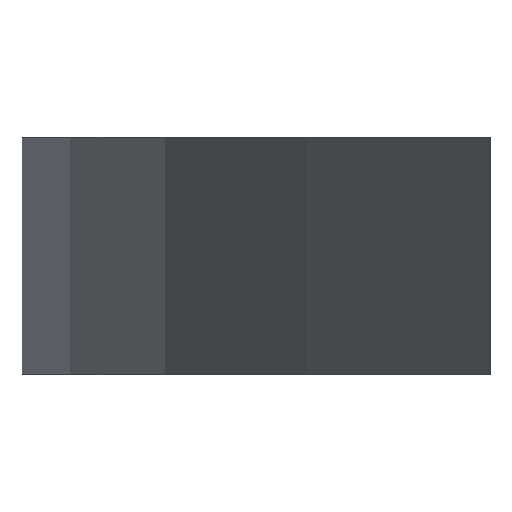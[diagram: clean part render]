
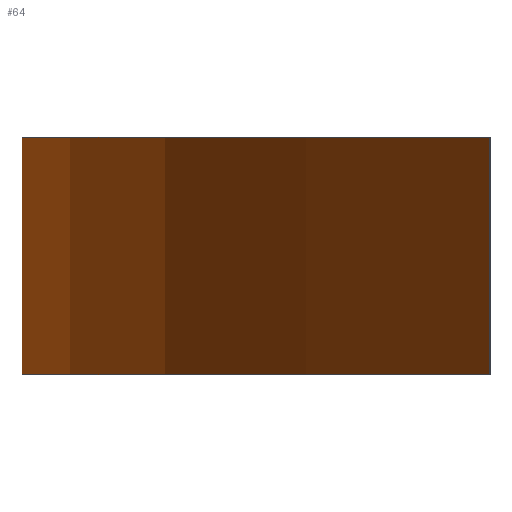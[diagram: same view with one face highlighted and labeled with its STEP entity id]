
A CAD part, left-side view. The second image highlights one B-rep face of the part: STEP entity #64.
In plain terms, the highlighted cylindrical face has radius 50 mm (diameter 100 mm), a partial arc.
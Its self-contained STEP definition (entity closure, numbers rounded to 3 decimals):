
#14=CYLINDRICAL_SURFACE('',#89,50.);
#16=FACE_OUTER_BOUND('',#20,.T.);
#20=EDGE_LOOP('',(#45,#46,#47,#48));
#23=CIRCLE('',#88,50.);
#24=CIRCLE('',#90,50.);
#26=LINE('',#119,#30);
#27=LINE('',#122,#31);
#30=VECTOR('',#102,10.);
#31=VECTOR('',#105,10.);
#33=VERTEX_POINT('',#113);
#34=VERTEX_POINT('',#114);
#35=VERTEX_POINT('',#118);
#36=VERTEX_POINT('',#120);
#38=EDGE_CURVE('',#34,#33,#23,.T.);
#39=EDGE_CURVE('',#35,#34,#26,.T.);
#40=EDGE_CURVE('',#36,#35,#24,.T.);
#41=EDGE_CURVE('',#33,#36,#27,.T.);
#45=ORIENTED_EDGE('',*,*,#39,.F.);
#46=ORIENTED_EDGE('',*,*,#40,.F.);
#47=ORIENTED_EDGE('',*,*,#41,.F.);
#48=ORIENTED_EDGE('',*,*,#38,.F.);
#64=ADVANCED_FACE('',(#16),#14,.T.);
#88=AXIS2_PLACEMENT_3D('',#116,#98,#99);
#89=AXIS2_PLACEMENT_3D('',#117,#100,#101);
#90=AXIS2_PLACEMENT_3D('',#121,#103,#104);
#98=DIRECTION('center_axis',(0.,0.,-1.));
#99=DIRECTION('ref_axis',(0.543,0.84,0.));
#100=DIRECTION('center_axis',(0.,0.,1.));
#101=DIRECTION('ref_axis',(0.543,0.84,0.));
#102=DIRECTION('',(0.,0.,-1.));
#103=DIRECTION('center_axis',(0.,0.,1.));
#104=DIRECTION('ref_axis',(0.543,0.84,0.));
#105=DIRECTION('',(0.,0.,1.));
#113=CARTESIAN_POINT('',(27.129,0.,-2.));
#114=CARTESIAN_POINT('',(-27.129,0.,-2.));
#116=CARTESIAN_POINT('Origin',(0.,-42.,-2.));
#117=CARTESIAN_POINT('Origin',(0.,-42.,0.));
#118=CARTESIAN_POINT('',(-27.129,0.,2.));
#119=CARTESIAN_POINT('',(-27.129,0.,0.));
#120=CARTESIAN_POINT('',(27.129,0.,2.));
#121=CARTESIAN_POINT('Origin',(0.,-42.,2.));
#122=CARTESIAN_POINT('',(27.129,0.,0.));
